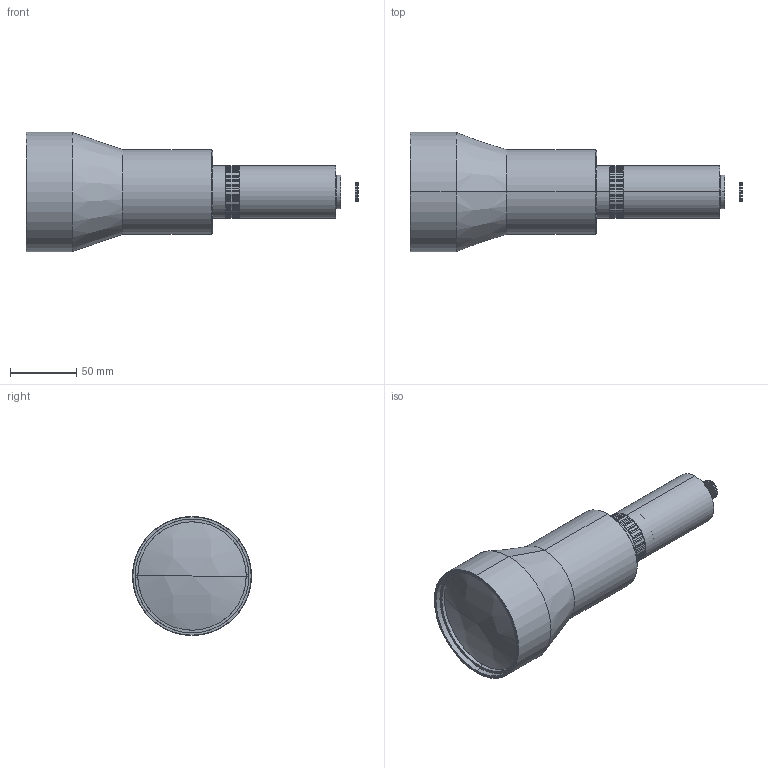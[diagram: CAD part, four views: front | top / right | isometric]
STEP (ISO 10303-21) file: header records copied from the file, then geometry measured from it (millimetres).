
FILE_DESCRIPTION (( 'STEP AP214' ), '1' );
FILE_NAME ('F450-5.6--鼠票.STEP', '2023-05-17T21:51:13', ( '' ), ( '' ), 'SwSTEP 2.0', 'SolidWorks 2016', '' );
FILE_SCHEMA (( 'AUTOMOTIVE_DESIGN' ));
Length unit declared in the file: millimetre
Products named in the file (18): NONE; NONE_1; NONE_2; F450-5.6--鼠票; 覃蝴遠; NONE_10; 痄雄芠; 种隊; f450_8g_b6round-2; NONE_8; NONE_4; ѹȦ27-05; ѹȦ77-05; ѹȦ86-05; ѹȦ82-05; NONE_7; 諉諳; 噩芠
Assembly tree (17 placements, depth 3):
  F450-5.6--鼠票
    噩芠
    f450_8g_b6round-2
      NONE
      NONE_1
      NONE_2
      NONE_4
      NONE_7
      NONE_8
      NONE_10
    ѹȦ86-05
    ѹȦ82-05
    ѹȦ77-05
    ѹȦ27-05
    覃蝴遠
    痄雄芠
    諉諳
    种隊
Bounding box: 250.91 x 90 x 90 mm (x, y, z)
Volume: 283905.5 mm3; surface area: 147152.5 mm2
Topology: 16 solids, 16 shells, 345 faces, 840 edges, 550 vertices
Faces by surface type: cylinder 219, plane 86, bspline 24, cone 16
Entity records: 14058 total; most frequent: CARTESIAN_POINT 3419, DIRECTION 1945, ORIENTED_EDGE 1680, EDGE_CURVE 840, AXIS2_PLACEMENT_3D 817, VERTEX_POINT 550, CIRCLE 475, EDGE_LOOP 394
